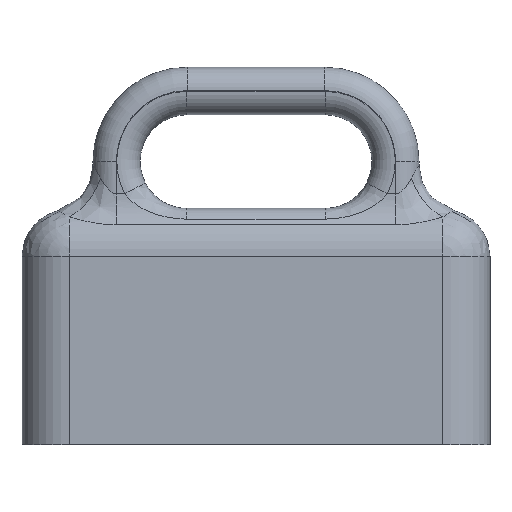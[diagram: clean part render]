
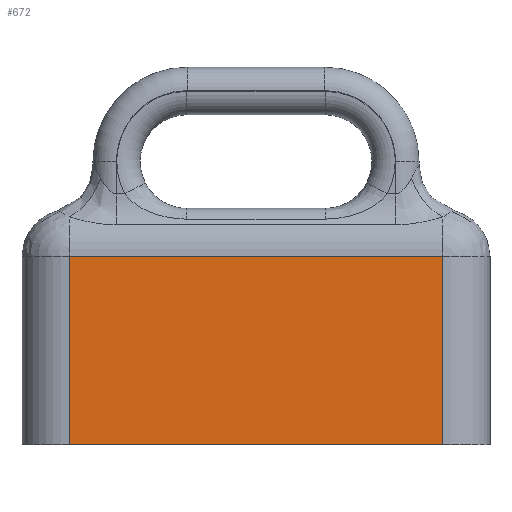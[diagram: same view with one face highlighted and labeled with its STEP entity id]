
A CAD part, top view. The second image highlights one B-rep face of the part: STEP entity #672.
In plain terms, the highlighted planar face has unit normal (0, 0, 1).
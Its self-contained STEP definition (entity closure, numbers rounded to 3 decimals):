
#61=LINE($,#964,#89);
#83=LINE($,#1486,#111);
#84=LINE($,#1500,#112);
#86=LINE($,#1503,#114);
#89=VECTOR($,#775,12.573);
#111=VECTOR($,#911,12.573);
#112=VECTOR($,#938,6.337);
#114=VECTOR($,#942,6.337);
#122=PLANE($,#755);
#173=FACE_OUTER_BOUND($,#225,.T.);
#225=EDGE_LOOP($,(#602,#603,#604,#605));
#278=VERTEX_POINT($,#958);
#280=VERTEX_POINT($,#962);
#330=VERTEX_POINT($,#1483);
#331=VERTEX_POINT($,#1485);
#338=EDGE_CURVE($,#280,#278,#61,.T.);
#415=EDGE_CURVE($,#330,#331,#83,.T.);
#422=EDGE_CURVE($,#331,#280,#84,.T.);
#424=EDGE_CURVE($,#278,#330,#86,.T.);
#602=ORIENTED_EDGE($,*,*,#415,.F.);
#603=ORIENTED_EDGE($,*,*,#424,.F.);
#604=ORIENTED_EDGE($,*,*,#338,.F.);
#605=ORIENTED_EDGE($,*,*,#422,.F.);
#672=ADVANCED_FACE($,(#173),#122,.T.);
#755=AXIS2_PLACEMENT_3D($,#1502,#940,#941);
#775=DIRECTION($,(-1.,0.,0.));
#911=DIRECTION($,(1.,0.,0.));
#938=DIRECTION($,(0.,-1.,0.));
#940=DIRECTION('center_axis',(0.,0.,1.));
#941=DIRECTION('ref_axis',(1.,0.,0.));
#942=DIRECTION($,(0.,1.,0.));
#958=CARTESIAN_POINT('',(-6.287,0.,1.588));
#962=CARTESIAN_POINT('',(6.287,0.,1.588));
#964=CARTESIAN_POINT($,(7.874,0.,1.588));
#1483=CARTESIAN_POINT('',(-6.287,6.337,1.588));
#1485=CARTESIAN_POINT('',(6.287,6.337,1.588));
#1486=CARTESIAN_POINT($,(-3.937,6.337,1.588));
#1500=CARTESIAN_POINT($,(6.287,5.944,1.588));
#1502=CARTESIAN_POINT('Origin',(0.,3.962,1.588));
#1503=CARTESIAN_POINT($,(-6.287,1.981,1.588));
